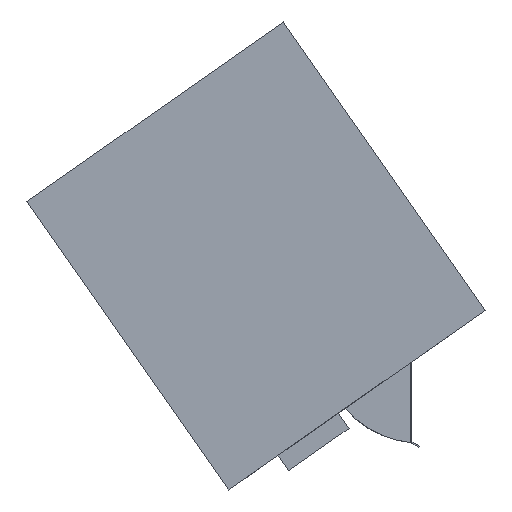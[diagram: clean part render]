
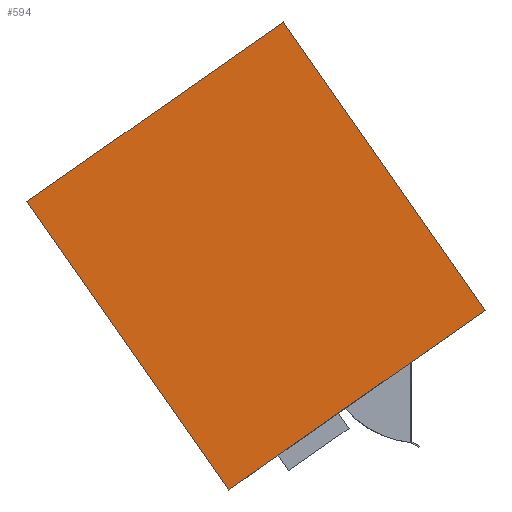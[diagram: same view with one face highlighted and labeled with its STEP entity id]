
A CAD part, left-side view. The second image highlights one B-rep face of the part: STEP entity #594.
In plain terms, the highlighted planar face has unit normal (-1, 0, 0).
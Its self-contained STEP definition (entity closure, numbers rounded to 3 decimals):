
#36=FACE_OUTER_BOUND('',#74,.T.);
#74=EDGE_LOOP('',(#437,#438,#439,#440));
#102=LINE('',#843,#178);
#109=LINE('',#858,#185);
#134=LINE('',#907,#210);
#135=LINE('',#909,#211);
#178=VECTOR('',#682,10.);
#185=VECTOR('',#693,10.);
#210=VECTOR('',#728,10.);
#211=VECTOR('',#731,10.);
#254=VERTEX_POINT('',#840);
#255=VERTEX_POINT('',#842);
#261=VERTEX_POINT('',#857);
#280=VERTEX_POINT('',#905);
#308=EDGE_CURVE('',#254,#255,#102,.T.);
#315=EDGE_CURVE('',#261,#254,#109,.T.);
#340=EDGE_CURVE('',#280,#261,#134,.T.);
#341=EDGE_CURVE('',#280,#255,#135,.T.);
#437=ORIENTED_EDGE('',*,*,#341,.T.);
#438=ORIENTED_EDGE('',*,*,#308,.F.);
#439=ORIENTED_EDGE('',*,*,#315,.F.);
#440=ORIENTED_EDGE('',*,*,#340,.F.);
#561=PLANE('',#644);
#594=ADVANCED_FACE('',(#36),#561,.F.);
#644=AXIS2_PLACEMENT_3D('',#908,#729,#730);
#682=DIRECTION('',(0.,0.574,0.819));
#693=DIRECTION('',(0.,0.819,-0.574));
#728=DIRECTION('',(0.,-0.574,-0.819));
#729=DIRECTION('center_axis',(1.,0.,0.));
#730=DIRECTION('ref_axis',(0.,-0.819,0.574));
#731=DIRECTION('',(0.,0.819,-0.574));
#840=CARTESIAN_POINT('',(-91.755,117.342,-121.473));
#842=CARTESIAN_POINT('',(-91.755,294.596,131.672));
#843=CARTESIAN_POINT('',(-91.755,205.969,5.099));
#857=CARTESIAN_POINT('',(-91.755,-108.053,36.35));
#858=CARTESIAN_POINT('',(-91.755,0.485,-39.649));
#905=CARTESIAN_POINT('',(-91.755,69.201,289.495));
#907=CARTESIAN_POINT('',(-91.755,-19.426,162.923));
#908=CARTESIAN_POINT('Origin',(-91.755,89.111,86.924));
#909=CARTESIAN_POINT('',(-91.755,177.738,213.496));
